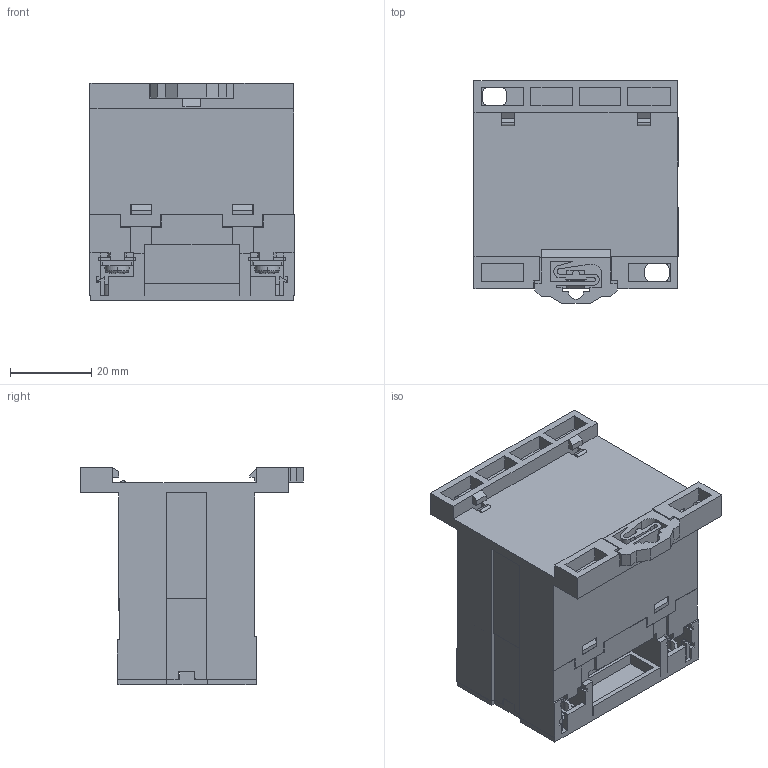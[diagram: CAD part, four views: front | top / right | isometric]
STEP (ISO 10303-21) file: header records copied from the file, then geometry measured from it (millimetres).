
FILE_DESCRIPTION (( 'STEP AP203' ), '1' );
FILE_NAME ('76F 二组2A螺丝式导轨外壳BD总装图4270BD2 外形.STEP', '2023-02-01T03:49:20', ( '' ), ( '' ), 'SwSTEP 2.0', 'SolidWorks 2018', '' );
FILE_SCHEMA (( 'CONFIG_CONTROL_DESIGN' ));
Length unit declared in the file: millimetre
Products named in the file (1): 76F  二组2A螺丝式导轨外壳BD总装图4270BD2 外形
Bounding box: 50.2 x 54.83 x 53.45 mm (x, y, z)
Volume: 78635.9 mm3; surface area: 24812 mm2
Topology: 2 solids, 8 shells, 1148 faces, 3223 edges, 2089 vertices
Faces by surface type: plane 999, cylinder 101, torus 26, cone 14, sphere 8
Entity records: 36939 total; most frequent: CARTESIAN_POINT 7028, ORIENTED_EDGE 6446, DIRECTION 5785, EDGE_CURVE 3223, LINE 2845, VECTOR 2845, VERTEX_POINT 2089, AXIS2_PLACEMENT_3D 1470
